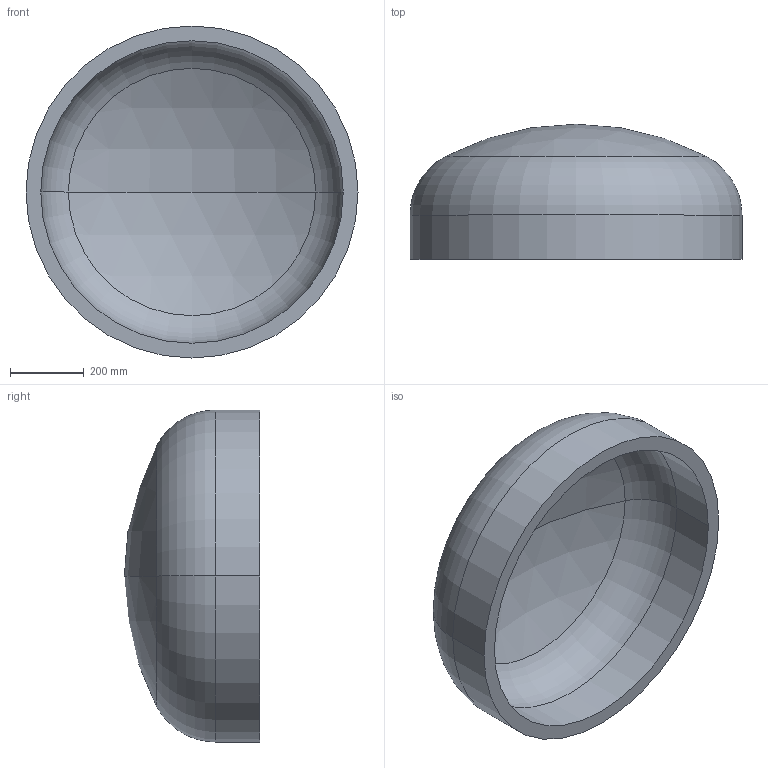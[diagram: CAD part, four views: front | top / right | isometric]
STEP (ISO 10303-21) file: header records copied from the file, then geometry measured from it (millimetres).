
FILE_DESCRIPTION (( 'STEP AP203' ), '1' );
FILE_NAME ('DIN 28013 Korbbogenform_-_Boden DIN 28013 - 900 x 120 - I - s=40.step', '2016-07-01T08:31:16', ( '' ), ( '' ), 'SwSTEP 2.0', 'SolidWorks 2013', '' );
FILE_SCHEMA (( 'CONFIG_CONTROL_DESIGN' ));
Length unit declared in the file: millimetre
Products named in the file (1): DIN 28013 Korbbogenform_-_Boden DIN 28013 - 900 x 120 - I - s=40
Bounding box: 900 x 366.68 x 900 mm (x, y, z)
Volume: 46315410.8 mm3; surface area: 2427191.8 mm2
Topology: 1 solids, 1 shells, 13 faces, 24 edges, 14 vertices
Faces by surface type: torus 4, cylinder 4, sphere 4, plane 1
Entity records: 407 total; most frequent: DIRECTION 72, CARTESIAN_POINT 52, ORIENTED_EDGE 48, AXIS2_PLACEMENT_3D 34, EDGE_CURVE 24, CIRCLE 20, EDGE_LOOP 14, VERTEX_POINT 14
